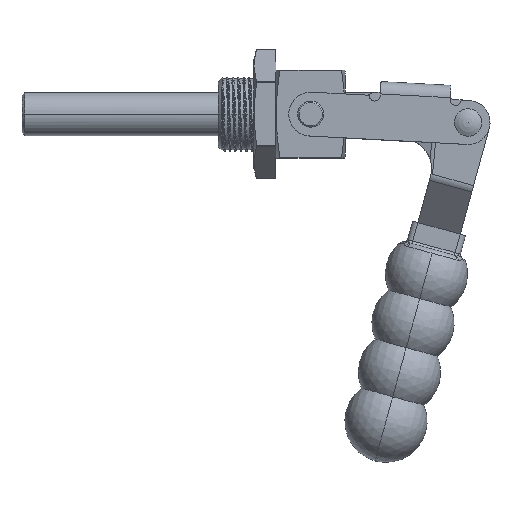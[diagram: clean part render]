
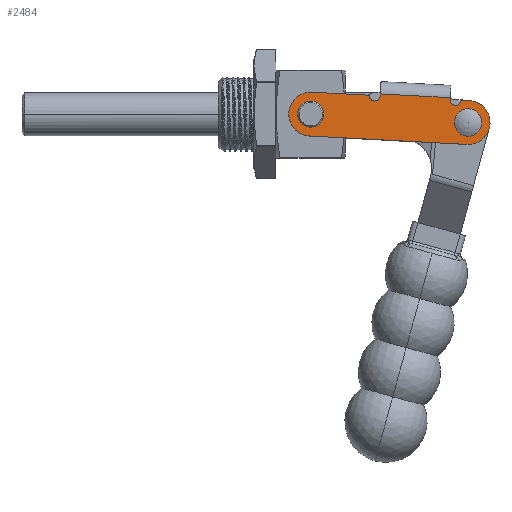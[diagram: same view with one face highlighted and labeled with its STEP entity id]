
A CAD part, top view. The second image highlights one B-rep face of the part: STEP entity #2484.
In plain terms, the highlighted planar face has unit normal (0, 0, 1).
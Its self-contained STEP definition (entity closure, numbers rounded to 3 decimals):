
#78 = EDGE_CURVE ( 'NONE', #6637, #4046, #4485, .T. ) ;
#188 = ORIENTED_EDGE ( 'NONE', *, *, #1159, .T. ) ;
#193 = VECTOR ( 'NONE', #2223, 1000. ) ;
#344 = AXIS2_PLACEMENT_3D ( 'NONE', #1804, #8392, #2773 ) ;
#352 = CARTESIAN_POINT ( 'NONE',  ( -73.5, 16., 20. ) ) ;
#422 = VERTEX_POINT ( 'NONE', #1298 ) ;
#440 = CARTESIAN_POINT ( 'NONE',  ( -8., 0., 20. ) ) ;
#613 = CARTESIAN_POINT ( 'NONE',  ( -65.5, 8., 20. ) ) ;
#1159 = EDGE_CURVE ( 'NONE', #3759, #422, #2798, .T. ) ;
#1280 = DIRECTION ( 'NONE',  ( 0., 0., -1. ) ) ;
#1298 = CARTESIAN_POINT ( 'NONE',  ( -5., 8., 20. ) ) ;
#1526 = EDGE_CURVE ( 'NONE', #7543, #4449, #4508, .T. ) ;
#1552 = DIRECTION ( 'NONE',  ( -1., 0., 0. ) ) ;
#1626 = DIRECTION ( 'NONE',  ( 0., -1., 0. ) ) ;
#1659 = CARTESIAN_POINT ( 'NONE',  ( -13., 16., 20. ) ) ;
#1661 = EDGE_CURVE ( 'NONE', #1797, #6583, #9932, .T. ) ;
#1797 = VERTEX_POINT ( 'NONE', #4205 ) ;
#1804 = CARTESIAN_POINT ( 'NONE',  ( -65.5, 8., 20. ) ) ;
#1929 = VECTOR ( 'NONE', #1626, 1000. ) ;
#1937 = VECTOR ( 'NONE', #2523, 1000. ) ;
#2033 = CARTESIAN_POINT ( 'NONE',  ( -73.5, 0., 20. ) ) ;
#2110 = DIRECTION ( 'NONE',  ( 0., 0., -1. ) ) ;
#2219 = AXIS2_PLACEMENT_3D ( 'NONE', #7974, #2329, #8901 ) ;
#2223 = DIRECTION ( 'NONE',  ( 1., 0., 0. ) ) ;
#2230 = PLANE ( 'NONE',  #8753 ) ;
#2329 = DIRECTION ( 'NONE',  ( 0., 0., -1. ) ) ;
#2346 = DIRECTION ( 'NONE',  ( -1., 0., 0. ) ) ;
#2404 = CARTESIAN_POINT ( 'NONE',  ( -44.5, 16., 20. ) ) ;
#2418 = CARTESIAN_POINT ( 'NONE',  ( -15., 16.7, 20. ) ) ;
#2484 = ADVANCED_FACE ( 'NONE', ( #10400, #2942, #7946 ), #2230, .F. ) ;
#2523 = DIRECTION ( 'NONE',  ( -1., 0., 0. ) ) ;
#2534 = EDGE_LOOP ( 'NONE', ( #188, #3016 ) ) ;
#2541 = CARTESIAN_POINT ( 'NONE',  ( -40.5, 16.7, 20. ) ) ;
#2622 = DIRECTION ( 'NONE',  ( -1., 0., 0. ) ) ;
#2767 = DIRECTION ( 'NONE',  ( 0., 0., -1. ) ) ;
#2773 = DIRECTION ( 'NONE',  ( -1., 0., 0. ) ) ;
#2798 = CIRCLE ( 'NONE', #10758, 3. ) ;
#2942 = FACE_BOUND ( 'NONE', #10516, .T. ) ;
#2948 = CARTESIAN_POINT ( 'NONE',  ( -8., 16., 20. ) ) ;
#2962 = LINE ( 'NONE', #11131, #6031 ) ;
#3016 = ORIENTED_EDGE ( 'NONE', *, *, #8984, .T. ) ;
#3069 = DIRECTION ( 'NONE',  ( 0., -1., 0. ) ) ;
#3409 = CARTESIAN_POINT ( 'NONE',  ( -15., 16., 20. ) ) ;
#3469 = CARTESIAN_POINT ( 'NONE',  ( -8., 8., 20. ) ) ;
#3680 = EDGE_CURVE ( 'NONE', #9525, #10796, #6273, .T. ) ;
#3758 = ORIENTED_EDGE ( 'NONE', *, *, #1661, .T. ) ;
#3759 = VERTEX_POINT ( 'NONE', #11655 ) ;
#3783 = VERTEX_POINT ( 'NONE', #10752 ) ;
#3804 = CARTESIAN_POINT ( 'NONE',  ( -73.5, 8., 20. ) ) ;
#3841 = DIRECTION ( 'NONE',  ( 0., 0., -1. ) ) ;
#3919 = ORIENTED_EDGE ( 'NONE', *, *, #7472, .F. ) ;
#3932 = CARTESIAN_POINT ( 'NONE',  ( -65.5, 16., 20. ) ) ;
#4000 = CIRCLE ( 'NONE', #6285, 8. ) ;
#4026 = AXIS2_PLACEMENT_3D ( 'NONE', #7760, #2110, #8692 ) ;
#4046 = VERTEX_POINT ( 'NONE', #440 ) ;
#4069 = CIRCLE ( 'NONE', #8100, 2. ) ;
#4205 = CARTESIAN_POINT ( 'NONE',  ( -62.5, 8., 20. ) ) ;
#4416 = DIRECTION ( 'NONE',  ( -1., 0., 0. ) ) ;
#4447 = LINE ( 'NONE', #11855, #1937 ) ;
#4449 = VERTEX_POINT ( 'NONE', #2404 ) ;
#4485 = LINE ( 'NONE', #5452, #6687 ) ;
#4508 = CIRCLE ( 'NONE', #5066, 2. ) ;
#4946 = ORIENTED_EDGE ( 'NONE', *, *, #78, .T. ) ;
#5002 = VERTEX_POINT ( 'NONE', #2541 ) ;
#5056 = EDGE_CURVE ( 'NONE', #8563, #3783, #4069, .T. ) ;
#5066 = AXIS2_PLACEMENT_3D ( 'NONE', #8386, #2767, #8213 ) ;
#5452 = CARTESIAN_POINT ( 'NONE',  ( -73.5, 0., 20. ) ) ;
#5709 = CARTESIAN_POINT ( 'NONE',  ( -8., 8., 20. ) ) ;
#5780 = EDGE_CURVE ( 'NONE', #5002, #7543, #9043, .T. ) ;
#5831 = CARTESIAN_POINT ( 'NONE',  ( -40.5, 16., 20. ) ) ;
#6031 = VECTOR ( 'NONE', #7378, 1000. ) ;
#6273 = CIRCLE ( 'NONE', #7190, 8. ) ;
#6285 = AXIS2_PLACEMENT_3D ( 'NONE', #3469, #10009, #4416 ) ;
#6539 = VECTOR ( 'NONE', #3069, 1000. ) ;
#6559 = DIRECTION ( 'NONE',  ( -1., 0., 0. ) ) ;
#6583 = VERTEX_POINT ( 'NONE', #9860 ) ;
#6637 = VERTEX_POINT ( 'NONE', #11776 ) ;
#6687 = VECTOR ( 'NONE', #9178, 1000. ) ;
#6853 = ORIENTED_EDGE ( 'NONE', *, *, #3680, .F. ) ;
#6916 = CIRCLE ( 'NONE', #2219, 3. ) ;
#6924 = CARTESIAN_POINT ( 'NONE',  ( -65.5, 8., 20. ) ) ;
#7116 = ORIENTED_EDGE ( 'NONE', *, *, #8042, .F. ) ;
#7190 = AXIS2_PLACEMENT_3D ( 'NONE', #6924, #1280, #7878 ) ;
#7198 = DIRECTION ( 'NONE',  ( 0., 0., -1. ) ) ;
#7260 = CARTESIAN_POINT ( 'NONE',  ( -15., 0., 20. ) ) ;
#7286 = EDGE_CURVE ( 'NONE', #4449, #10796, #4447, .T. ) ;
#7326 = EDGE_LOOP ( 'NONE', ( #7116, #10904, #12114, #8559, #8765, #6853, #3919, #4946, #8226, #7336, #10392 ) ) ;
#7336 = ORIENTED_EDGE ( 'NONE', *, *, #7560, .F. ) ;
#7378 = DIRECTION ( 'NONE',  ( 1., 0., 0. ) ) ;
#7472 = EDGE_CURVE ( 'NONE', #6637, #9525, #7688, .T. ) ;
#7543 = VERTEX_POINT ( 'NONE', #5831 ) ;
#7560 = EDGE_CURVE ( 'NONE', #3783, #10760, #12050, .T. ) ;
#7688 = CIRCLE ( 'NONE', #344, 8. ) ;
#7760 = CARTESIAN_POINT ( 'NONE',  ( -8., 8., 20. ) ) ;
#7875 = DIRECTION ( 'NONE',  ( 0., 0., -1. ) ) ;
#7878 = DIRECTION ( 'NONE',  ( -1., 0., 0. ) ) ;
#7946 = FACE_OUTER_BOUND ( 'NONE', #7326, .T. ) ;
#7974 = CARTESIAN_POINT ( 'NONE',  ( -65.5, 8., 20. ) ) ;
#8042 = EDGE_CURVE ( 'NONE', #10424, #8563, #9125, .T. ) ;
#8100 = AXIS2_PLACEMENT_3D ( 'NONE', #1659, #8236, #2622 ) ;
#8213 = DIRECTION ( 'NONE',  ( 1., 0., 0. ) ) ;
#8226 = ORIENTED_EDGE ( 'NONE', *, *, #9263, .F. ) ;
#8236 = DIRECTION ( 'NONE',  ( 0., 0., 1. ) ) ;
#8386 = CARTESIAN_POINT ( 'NONE',  ( -42.5, 16., 20. ) ) ;
#8392 = DIRECTION ( 'NONE',  ( 0., 0., -1. ) ) ;
#8559 = ORIENTED_EDGE ( 'NONE', *, *, #1526, .T. ) ;
#8563 = VERTEX_POINT ( 'NONE', #3409 ) ;
#8692 = DIRECTION ( 'NONE',  ( -1., 0., 0. ) ) ;
#8753 = AXIS2_PLACEMENT_3D ( 'NONE', #2033, #7875, #6559 ) ;
#8765 = ORIENTED_EDGE ( 'NONE', *, *, #7286, .T. ) ;
#8786 = EDGE_CURVE ( 'NONE', #5002, #10424, #2962, .T. ) ;
#8901 = DIRECTION ( 'NONE',  ( -1., 0., 0. ) ) ;
#8984 = EDGE_CURVE ( 'NONE', #422, #3759, #11155, .T. ) ;
#9043 = LINE ( 'NONE', #10473, #6539 ) ;
#9125 = LINE ( 'NONE', #7260, #1929 ) ;
#9178 = DIRECTION ( 'NONE',  ( 1., 0., 0. ) ) ;
#9263 = EDGE_CURVE ( 'NONE', #10760, #4046, #4000, .T. ) ;
#9525 = VERTEX_POINT ( 'NONE', #3804 ) ;
#9684 = ORIENTED_EDGE ( 'NONE', *, *, #10360, .T. ) ;
#9860 = CARTESIAN_POINT ( 'NONE',  ( -68.5, 8., 20. ) ) ;
#9932 = CIRCLE ( 'NONE', #11936, 3. ) ;
#10009 = DIRECTION ( 'NONE',  ( 0., 0., -1. ) ) ;
#10360 = EDGE_CURVE ( 'NONE', #6583, #1797, #6916, .T. ) ;
#10392 = ORIENTED_EDGE ( 'NONE', *, *, #5056, .F. ) ;
#10400 = FACE_BOUND ( 'NONE', #2534, .T. ) ;
#10424 = VERTEX_POINT ( 'NONE', #2418 ) ;
#10473 = CARTESIAN_POINT ( 'NONE',  ( -40.5, 16., 20. ) ) ;
#10516 = EDGE_LOOP ( 'NONE', ( #9684, #3758 ) ) ;
#10752 = CARTESIAN_POINT ( 'NONE',  ( -11., 16., 20. ) ) ;
#10758 = AXIS2_PLACEMENT_3D ( 'NONE', #5709, #3841, #2346 ) ;
#10760 = VERTEX_POINT ( 'NONE', #2948 ) ;
#10796 = VERTEX_POINT ( 'NONE', #3932 ) ;
#10904 = ORIENTED_EDGE ( 'NONE', *, *, #8786, .F. ) ;
#11131 = CARTESIAN_POINT ( 'NONE',  ( -73.5, 16.7, 20. ) ) ;
#11155 = CIRCLE ( 'NONE', #4026, 3. ) ;
#11655 = CARTESIAN_POINT ( 'NONE',  ( -11., 8., 20. ) ) ;
#11776 = CARTESIAN_POINT ( 'NONE',  ( -65.5, 0., 20. ) ) ;
#11855 = CARTESIAN_POINT ( 'NONE',  ( -65.5, 16., 20. ) ) ;
#11936 = AXIS2_PLACEMENT_3D ( 'NONE', #613, #7198, #1552 ) ;
#12050 = LINE ( 'NONE', #352, #193 ) ;
#12114 = ORIENTED_EDGE ( 'NONE', *, *, #5780, .T. ) ;
